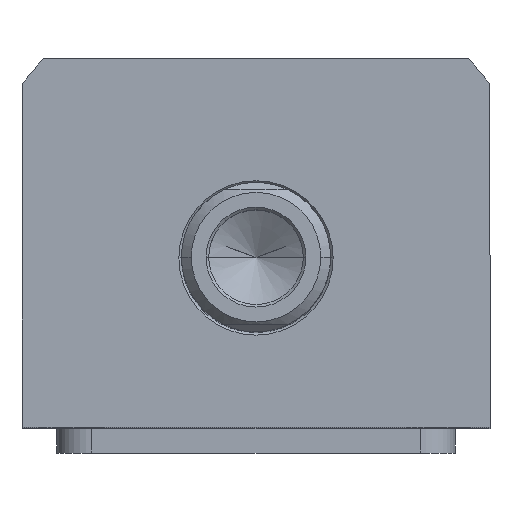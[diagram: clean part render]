
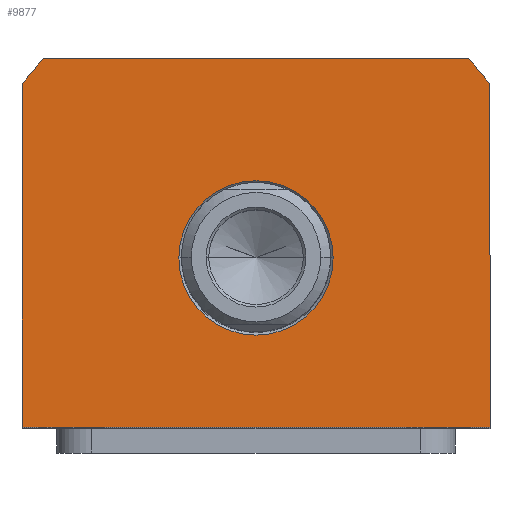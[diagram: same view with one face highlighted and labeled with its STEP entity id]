
A CAD part, top view. The second image highlights one B-rep face of the part: STEP entity #9877.
In plain terms, the highlighted planar face has unit normal (0, 0, 1).
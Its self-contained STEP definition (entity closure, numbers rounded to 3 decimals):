
#23 = EDGE_LOOP ( 'NONE', ( #9993, #5517, #7316, #7488, #814, #11071 ) ) ;
#290 = CARTESIAN_POINT ( 'NONE',  ( 47., 34.832, 77.5 ) ) ;
#519 = CIRCLE ( 'NONE', #9005, 15.5 ) ;
#555 = CIRCLE ( 'NONE', #3847, 15.5 ) ;
#633 = VERTEX_POINT ( 'NONE', #3884 ) ;
#814 = ORIENTED_EDGE ( 'NONE', *, *, #4217, .T. ) ;
#1006 = DIRECTION ( 'NONE',  ( 0., -1., 0. ) ) ;
#1079 = CARTESIAN_POINT ( 'NONE',  ( 42.688, 40., 77.5 ) ) ;
#1082 = EDGE_CURVE ( 'NONE', #633, #8831, #8018, .T. ) ;
#1238 = CARTESIAN_POINT ( 'NONE',  ( -15.5, 0., 77.5 ) ) ;
#1365 = VERTEX_POINT ( 'NONE', #11261 ) ;
#1564 = CARTESIAN_POINT ( 'NONE',  ( 0., 0., 77.5 ) ) ;
#1688 = EDGE_CURVE ( 'NONE', #8238, #2104, #555, .T. ) ;
#1943 = CARTESIAN_POINT ( 'NONE',  ( 0., 0., 77.5 ) ) ;
#2022 = DIRECTION ( 'NONE',  ( 1., 0., 0. ) ) ;
#2104 = VERTEX_POINT ( 'NONE', #6923 ) ;
#2402 = DIRECTION ( 'NONE',  ( 0., 0., 1. ) ) ;
#2420 = EDGE_CURVE ( 'NONE', #7543, #4481, #11872, .T. ) ;
#2513 = AXIS2_PLACEMENT_3D ( 'NONE', #1564, #2402, #7021 ) ;
#2784 = EDGE_CURVE ( 'NONE', #4481, #633, #5575, .T. ) ;
#2891 = CIRCLE ( 'NONE', #2513, 58.5 ) ;
#3056 = CARTESIAN_POINT ( 'NONE',  ( 0., 0., 77.5 ) ) ;
#3270 = VERTEX_POINT ( 'NONE', #1079 ) ;
#3358 = CARTESIAN_POINT ( 'NONE',  ( 0., 0., 77.5 ) ) ;
#3499 = VECTOR ( 'NONE', #5437, 1000. ) ;
#3792 = DIRECTION ( 'NONE',  ( 0., 0., 1. ) ) ;
#3847 = AXIS2_PLACEMENT_3D ( 'NONE', #7538, #4753, #9406 ) ;
#3884 = CARTESIAN_POINT ( 'NONE',  ( 47., -34., 77.5 ) ) ;
#4217 = EDGE_CURVE ( 'NONE', #1365, #7543, #2891, .T. ) ;
#4382 = DIRECTION ( 'NONE',  ( 0., 0., 1. ) ) ;
#4481 = VERTEX_POINT ( 'NONE', #8995 ) ;
#4716 = CARTESIAN_POINT ( 'NONE',  ( -42.688, 40., 77.5 ) ) ;
#4753 = DIRECTION ( 'NONE',  ( 0., 0., -1. ) ) ;
#5050 = DIRECTION ( 'NONE',  ( 1., 0., 0. ) ) ;
#5437 = DIRECTION ( 'NONE',  ( -1., 0., 0. ) ) ;
#5517 = ORIENTED_EDGE ( 'NONE', *, *, #1082, .T. ) ;
#5575 = LINE ( 'NONE', #6900, #7445 ) ;
#5708 = CARTESIAN_POINT ( 'NONE',  ( -47., -34., 77.5 ) ) ;
#6146 = EDGE_LOOP ( 'NONE', ( #9314, #9792 ) ) ;
#6245 = DIRECTION ( 'NONE',  ( 1., 0., 0. ) ) ;
#6297 = VECTOR ( 'NONE', #1006, 1000. ) ;
#6520 = DIRECTION ( 'NONE',  ( 0., 1., 0. ) ) ;
#6774 = AXIS2_PLACEMENT_3D ( 'NONE', #3358, #4382, #6245 ) ;
#6900 = CARTESIAN_POINT ( 'NONE',  ( 47., -34., 77.5 ) ) ;
#6923 = CARTESIAN_POINT ( 'NONE',  ( 15.5, 0., 77.5 ) ) ;
#7021 = DIRECTION ( 'NONE',  ( 1., 0., 0. ) ) ;
#7316 = ORIENTED_EDGE ( 'NONE', *, *, #10758, .T. ) ;
#7445 = VECTOR ( 'NONE', #5050, 1000. ) ;
#7488 = ORIENTED_EDGE ( 'NONE', *, *, #11632, .T. ) ;
#7538 = CARTESIAN_POINT ( 'NONE',  ( 0., 0., 77.5 ) ) ;
#7543 = VERTEX_POINT ( 'NONE', #11905 ) ;
#8018 = LINE ( 'NONE', #10205, #8736 ) ;
#8238 = VERTEX_POINT ( 'NONE', #1238 ) ;
#8368 = EDGE_CURVE ( 'NONE', #2104, #8238, #519, .T. ) ;
#8448 = DIRECTION ( 'NONE',  ( 0., 0., -1. ) ) ;
#8688 = FACE_BOUND ( 'NONE', #6146, .T. ) ;
#8736 = VECTOR ( 'NONE', #6520, 1000. ) ;
#8737 = CIRCLE ( 'NONE', #10597, 58.5 ) ;
#8831 = VERTEX_POINT ( 'NONE', #290 ) ;
#8834 = LINE ( 'NONE', #4716, #3499 ) ;
#8965 = FACE_OUTER_BOUND ( 'NONE', #23, .T. ) ;
#8995 = CARTESIAN_POINT ( 'NONE',  ( -47., -34., 77.5 ) ) ;
#9005 = AXIS2_PLACEMENT_3D ( 'NONE', #3056, #8448, #2022 ) ;
#9314 = ORIENTED_EDGE ( 'NONE', *, *, #8368, .T. ) ;
#9406 = DIRECTION ( 'NONE',  ( 1., 0., 0. ) ) ;
#9792 = ORIENTED_EDGE ( 'NONE', *, *, #1688, .T. ) ;
#9877 = ADVANCED_FACE ( 'NONE', ( #8688, #8965 ), #10800, .T. ) ;
#9993 = ORIENTED_EDGE ( 'NONE', *, *, #2784, .T. ) ;
#10205 = CARTESIAN_POINT ( 'NONE',  ( 47., 34.832, 77.5 ) ) ;
#10223 = DIRECTION ( 'NONE',  ( 1., 0., 0. ) ) ;
#10597 = AXIS2_PLACEMENT_3D ( 'NONE', #1943, #3792, #10223 ) ;
#10758 = EDGE_CURVE ( 'NONE', #8831, #3270, #8737, .T. ) ;
#10800 = PLANE ( 'NONE',  #6774 ) ;
#11071 = ORIENTED_EDGE ( 'NONE', *, *, #2420, .T. ) ;
#11261 = CARTESIAN_POINT ( 'NONE',  ( -42.688, 40., 77.5 ) ) ;
#11632 = EDGE_CURVE ( 'NONE', #3270, #1365, #8834, .T. ) ;
#11872 = LINE ( 'NONE', #5708, #6297 ) ;
#11905 = CARTESIAN_POINT ( 'NONE',  ( -47., 34.832, 77.5 ) ) ;
